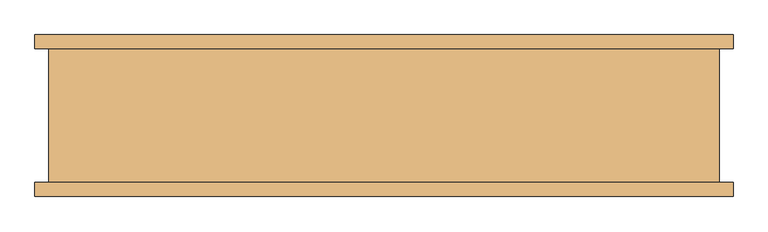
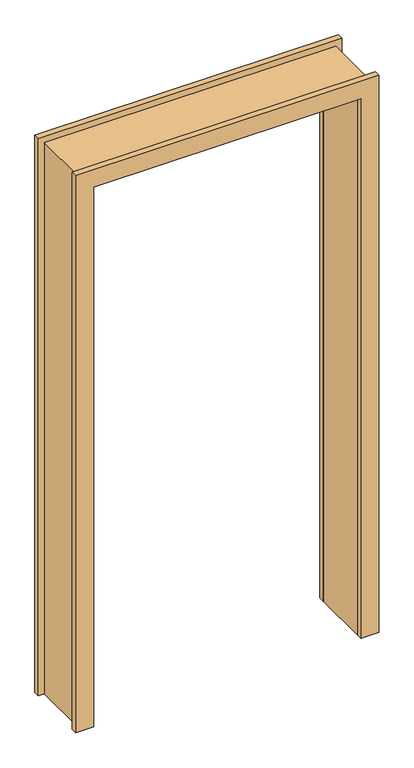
"""IFC4 building model written with IfcOpenShell, lengths in millimetres: door geometry, 门洞 : MD2(洞口）."""

from ifc_helpers import new_model, si_unit, frame, origin, place, context, project, spatial, polyline, outline, extrude, source, transform, mapped, element, save


def door_b620a7e4(model_context):
    return source(origin(), model_context, "Body", "SweptSolid", [
        extrude(outline(polyline([(2400.0, -600.0), (0.0, -600.0), (0.0, -550.0), (2350.0, -550.0), (2350.0, 550.0), (0.0, 550.0), (0.0, 600.0), (2400.0, 600.0), (2400.0, -600.0)])), frame((0.0, -120.0, 0.0), z_axis=(0.0, 1.0, 0.0), x_axis=(0.0, 0.0, 1.0)), (0.0, 0.0, 1.0), 240.0),
        extrude(outline(polyline([(2425.0, -625.0), (0.0, -625.0), (0.0, -550.0), (2350.0, -550.0), (2350.0, 550.0), (0.0, 550.0), (0.0, 625.0), (2425.0, 625.0), (2425.0, -625.0)])), frame((0.0, 120.0, 0.0), z_axis=(0.0, 1.0, 0.0), x_axis=(0.0, 0.0, 1.0)), (0.0, 0.0, 1.0), 25.0),
        extrude(outline(polyline([(2425.0, -625.0), (0.0, -625.0), (0.0, -550.0), (2350.0, -550.0), (2350.0, 550.0), (0.0, 550.0), (0.0, 625.0), (2425.0, 625.0), (2425.0, -625.0)])), frame((0.0, -145.0, 0.0), z_axis=(0.0, 1.0, 0.0), x_axis=(0.0, 0.0, 1.0)), (0.0, 0.0, 1.0), 25.0),
    ])


if __name__ == "__main__":
    model = new_model("IFC4")
    model_context = context("Model", 3, world=origin())
    ifc_project = project(units=[si_unit("LENGTHUNIT", "METRE", prefix="MILLI")], contexts=[model_context])
    site = spatial("IfcSite", under=ifc_project)
    building = spatial("IfcBuilding", under=site)
    placement = place(None, origin())
    door_shape = door_b620a7e4(model_context)
    element("IfcDoor", 1, ObjectType="门洞 : MD2(洞口）", at=placement, inside=building, context=model_context, shape_type="MappedRepresentation", body=[
        mapped(door_shape, transform((0.0, 0.0, 0.0), x_axis=(1.0, 0.0, 0.0), y_axis=(0.0, 1.0, 0.0), z_axis=(0.0, 0.0, 1.0))),
    ])
    save(model, "model.ifc")
